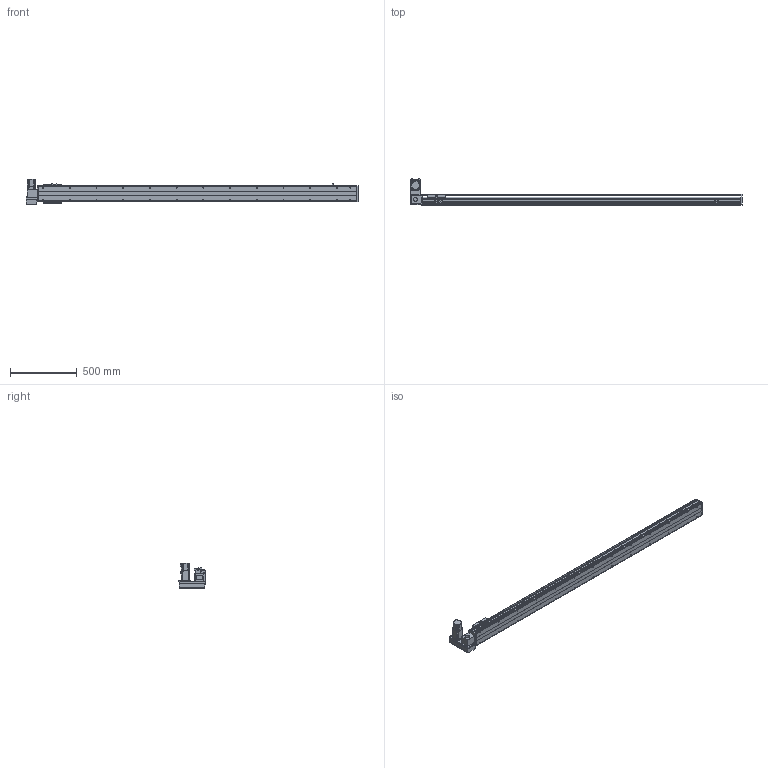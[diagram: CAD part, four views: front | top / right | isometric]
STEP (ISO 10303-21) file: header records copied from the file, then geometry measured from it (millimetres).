
FILE_DESCRIPTION( ( 'STEP AP214' ), '1' );
FILE_NAME( 'x:/temp/worker_27/temp/exporttempdir_6708_126_N18kz/format_0/PBS120-P40-S2100-LU-T40-C1-N(0).stp', '2022-06-06T00:33:27', ( 'License CC BY-ND 4.0' ), ( 'CADENAS' ), ' ', 'PARTsolutions', ' ' );
FILE_SCHEMA( ( 'AUTOMOTIVE_DESIGN { 1 0 10303 214 1 1 1 1 }' ) );
Length unit declared in the file: millimetre
Products named in the file (7): PBS120-P40-S2100-LU-T40-C1-N(0); _PBS120-S2100()_body; _PBS120T-LU_motors; _T40-p1; _PBS120_sliser; _PBS120_plant; _PBS120_sensor
Assembly tree (8 placements, depth 2):
  PBS120-P40-S2100-LU-T40-C1-N(0)
    _PBS120-S2100()_body
    _PBS120T-LU_motors
    _T40-p1
    _PBS120_sliser
    _PBS120_plant
    _PBS120_sensor  x3
Bounding box: 2486 x 198 x 189.7 mm (x, y, z)
Volume: 9541637.2 mm3; surface area: 1953800.4 mm2
Topology: 8 solids, 8 shells, 858 faces, 2206 edges, 1417 vertices
Faces by surface type: plane 559, cylinder 239, cone 58, torus 2
Full cylindrical faces by diameter (mm): 2.459 x6, 3.242 x4, 4 x2, 4.134 x4, 4.5 x10, 4.917 x30, 5.5 x11, 6 x2, 6.6 x1, 7 x2, 8.5 x4, 9 x4, 12 x1, 14 x1, 30 x2, 40 x1, 50 x2
Entity records: 28164 total; most frequent: DIRECTION 3860, CARTESIAN_POINT 3767, ORIENTED_EDGE 3562, EDGE_CURVE 1781, AXIS2_PLACEMENT_3D 1316, LINE 1228, VECTOR 1228, VERTEX_POINT 1223
